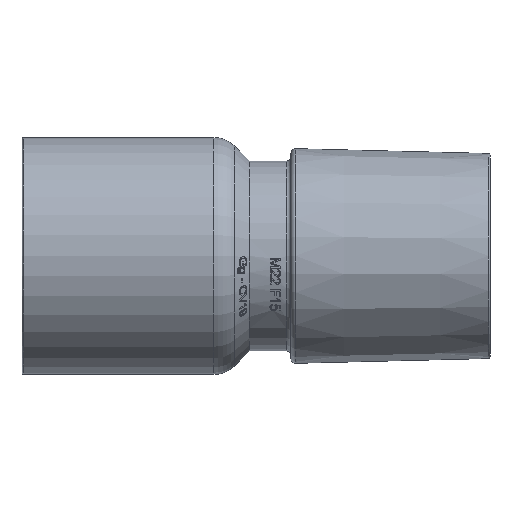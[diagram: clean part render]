
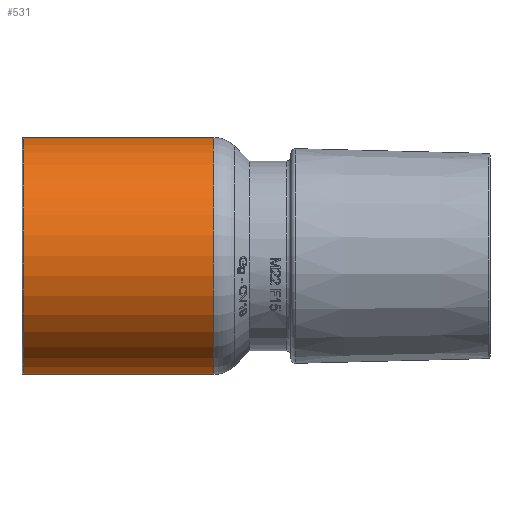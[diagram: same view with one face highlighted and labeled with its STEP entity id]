
A CAD part, top view. The second image highlights one B-rep face of the part: STEP entity #531.
In plain terms, the highlighted cylindrical face has radius 12.5 mm (diameter 25 mm), a partial arc.
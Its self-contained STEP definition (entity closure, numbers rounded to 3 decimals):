
#257=CYLINDRICAL_SURFACE('',#4481,12.5);
#290=FACE_OUTER_BOUND('',#1331,.T.);
#531=ADVANCED_FACE('',(#290),#257,.T.);
#793=LINE('',#6354,#1000);
#794=LINE('',#6355,#1001);
#1000=VECTOR('',#4800,1.);
#1001=VECTOR('',#4801,1.);
#1331=EDGE_LOOP('',(#1803,#1804,#1805,#1806));
#1604=CIRCLE('',#4453,12.5);
#1615=CIRCLE('',#4467,12.5);
#1803=ORIENTED_EDGE('',*,*,#3500,.T.);
#1804=ORIENTED_EDGE('',*,*,#3514,.T.);
#1805=ORIENTED_EDGE('',*,*,#3489,.T.);
#1806=ORIENTED_EDGE('',*,*,#3515,.F.);
#3059=VERTEX_POINT('',#6305);
#3060=VERTEX_POINT('',#6306);
#3067=VERTEX_POINT('',#6327);
#3068=VERTEX_POINT('',#6328);
#3489=EDGE_CURVE('',#3059,#3060,#1604,.T.);
#3500=EDGE_CURVE('',#3067,#3068,#1615,.T.);
#3514=EDGE_CURVE('',#3068,#3059,#793,.T.);
#3515=EDGE_CURVE('',#3067,#3060,#794,.T.);
#4453=AXIS2_PLACEMENT_3D('',#6304,#4740,#4741);
#4467=AXIS2_PLACEMENT_3D('',#6326,#4768,#4769);
#4481=AXIS2_PLACEMENT_3D('',#6356,#4802,#4803);
#4740=DIRECTION('',(-1.,0.,0.));
#4741=DIRECTION('',(0.,1.,0.));
#4768=DIRECTION('',(1.,0.,0.));
#4769=DIRECTION('',(0.,-1.,0.));
#4800=DIRECTION('',(1.,0.,0.));
#4801=DIRECTION('',(1.,0.,0.));
#4802=DIRECTION('',(1.,0.,0.));
#4803=DIRECTION('',(0.,-1.,0.));
#6304=CARTESIAN_POINT('',(-48.743,0.,-134.));
#6305=CARTESIAN_POINT('',(-48.743,-12.5,-134.));
#6306=CARTESIAN_POINT('',(-48.743,12.5,-134.));
#6326=CARTESIAN_POINT('',(-68.8,0.,-134.));
#6327=CARTESIAN_POINT('',(-68.8,12.5,-134.));
#6328=CARTESIAN_POINT('',(-68.8,-12.5,-134.));
#6354=CARTESIAN_POINT('',(-45.,-12.5,-134.));
#6355=CARTESIAN_POINT('',(-45.,12.5,-134.));
#6356=CARTESIAN_POINT('',(-45.,0.,-134.));
